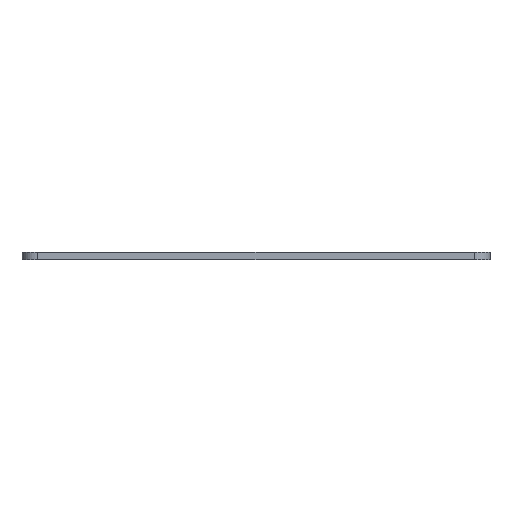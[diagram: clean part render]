
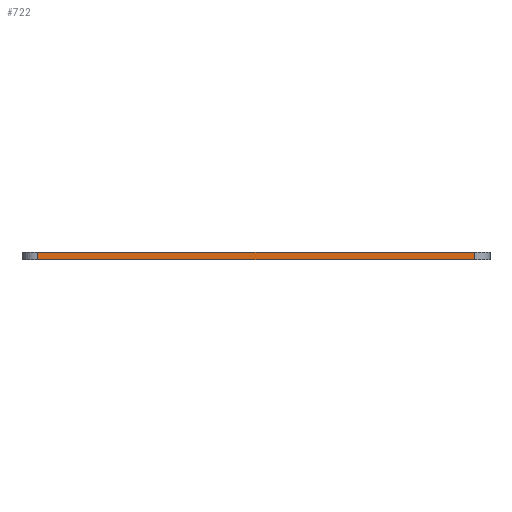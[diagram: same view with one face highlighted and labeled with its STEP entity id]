
A CAD part, front view. The second image highlights one B-rep face of the part: STEP entity #722.
In plain terms, the highlighted planar face has unit normal (0, -1, 0).
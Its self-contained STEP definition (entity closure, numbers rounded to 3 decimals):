
#21 = CARTESIAN_POINT ( 'NONE',  ( -92.826, -79.401, 0. ) ) ;
#27 = CARTESIAN_POINT ( 'NONE',  ( 77.174, -79.401, 3. ) ) ;
#163 = CARTESIAN_POINT ( 'NONE',  ( 71.174, -79.401, 3. ) ) ;
#188 = LINE ( 'NONE', #27, #1299 ) ;
#220 = ORIENTED_EDGE ( 'NONE', *, *, #915, .F. ) ;
#317 = LINE ( 'NONE', #1120, #1155 ) ;
#328 = EDGE_CURVE ( 'NONE', #904, #874, #335, .T. ) ;
#335 = LINE ( 'NONE', #366, #877 ) ;
#347 = PLANE ( 'NONE',  #738 ) ;
#366 = CARTESIAN_POINT ( 'NONE',  ( -92.826, -79.401, 3. ) ) ;
#416 = VERTEX_POINT ( 'NONE', #1027 ) ;
#459 = DIRECTION ( 'NONE',  ( 0., 1., 0. ) ) ;
#518 = VERTEX_POINT ( 'NONE', #895 ) ;
#537 = VECTOR ( 'NONE', #806, 1000. ) ;
#580 = DIRECTION ( 'NONE',  ( 0., 0., -1. ) ) ;
#586 = DIRECTION ( 'NONE',  ( 1., 0., 0. ) ) ;
#673 = CARTESIAN_POINT ( 'NONE',  ( -92.826, -79.401, 3. ) ) ;
#678 = FACE_OUTER_BOUND ( 'NONE', #829, .T. ) ;
#722 = ADVANCED_FACE ( 'NONE', ( #678 ), #347, .F. ) ;
#738 = AXIS2_PLACEMENT_3D ( 'NONE', #1314, #459, #1216 ) ;
#795 = ORIENTED_EDGE ( 'NONE', *, *, #328, .T. ) ;
#797 = EDGE_CURVE ( 'NONE', #874, #416, #317, .T. ) ;
#806 = DIRECTION ( 'NONE',  ( 0., 0., 1. ) ) ;
#828 = LINE ( 'NONE', #163, #537 ) ;
#829 = EDGE_LOOP ( 'NONE', ( #220, #795, #1374, #981 ) ) ;
#836 = EDGE_CURVE ( 'NONE', #416, #518, #828, .T. ) ;
#874 = VERTEX_POINT ( 'NONE', #21 ) ;
#877 = VECTOR ( 'NONE', #580, 1000. ) ;
#889 = DIRECTION ( 'NONE',  ( 1., 0., 0. ) ) ;
#895 = CARTESIAN_POINT ( 'NONE',  ( 71.174, -79.401, 3. ) ) ;
#904 = VERTEX_POINT ( 'NONE', #673 ) ;
#915 = EDGE_CURVE ( 'NONE', #904, #518, #188, .T. ) ;
#981 = ORIENTED_EDGE ( 'NONE', *, *, #836, .T. ) ;
#1027 = CARTESIAN_POINT ( 'NONE',  ( 71.174, -79.401, 0. ) ) ;
#1120 = CARTESIAN_POINT ( 'NONE',  ( 77.174, -79.401, 0. ) ) ;
#1155 = VECTOR ( 'NONE', #586, 1000. ) ;
#1216 = DIRECTION ( 'NONE',  ( -1., 0., 0. ) ) ;
#1299 = VECTOR ( 'NONE', #889, 1000. ) ;
#1314 = CARTESIAN_POINT ( 'NONE',  ( 77.174, -79.401, 3. ) ) ;
#1374 = ORIENTED_EDGE ( 'NONE', *, *, #797, .T. ) ;
